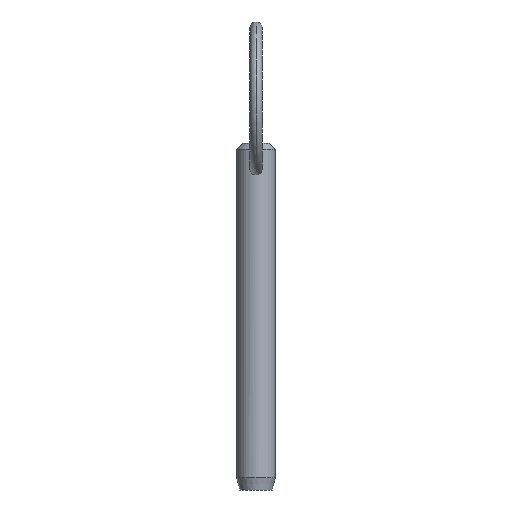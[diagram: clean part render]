
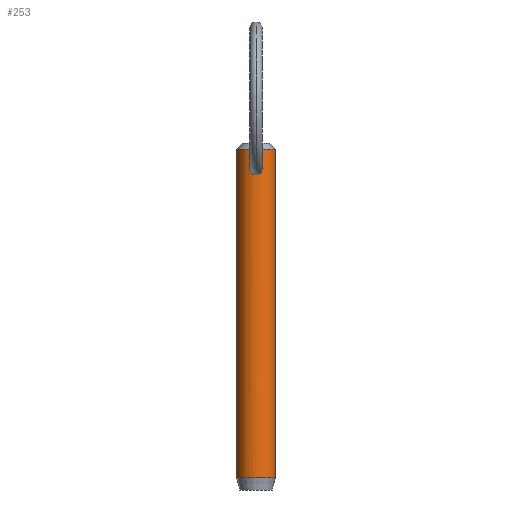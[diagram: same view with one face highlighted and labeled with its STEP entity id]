
A CAD part, front view. The second image highlights one B-rep face of the part: STEP entity #253.
In plain terms, the highlighted cylindrical face has radius 3.175 mm (diameter 6.35 mm), a partial arc.
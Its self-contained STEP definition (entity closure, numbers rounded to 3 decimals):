
#1 = AXIS2_PLACEMENT_3D ( 'NONE', #242, #316, #157 ) ;
#6 = CARTESIAN_POINT ( 'NONE',  ( -0.264, -3.165, 45.644 ) ) ;
#7 = CARTESIAN_POINT ( 'NONE',  ( -0.615, -3.116, 45.453 ) ) ;
#15 = FACE_OUTER_BOUND ( 'NONE', #373, .T. ) ;
#21 = CARTESIAN_POINT ( 'NONE',  ( 0., 0., 47.78 ) ) ;
#30 = CARTESIAN_POINT ( 'NONE',  ( 0.269, -3.166, 45.65 ) ) ;
#31 = VERTEX_POINT ( 'NONE', #267 ) ;
#48 = VERTEX_POINT ( 'NONE', #183 ) ;
#54 = ORIENTED_EDGE ( 'NONE', *, *, #173, .T. ) ;
#56 = EDGE_CURVE ( 'NONE', #419, #48, #167, .T. ) ;
#58 = CARTESIAN_POINT ( 'NONE',  ( 3.175, 0., 47.78 ) ) ;
#62 = CARTESIAN_POINT ( 'NONE',  ( 0.815, -3.07, 43.995 ) ) ;
#67 = VECTOR ( 'NONE', #415, 1000. ) ;
#72 = CARTESIAN_POINT ( 'NONE',  ( -0.888, -3.049, 44.109 ) ) ;
#77 = CARTESIAN_POINT ( 'NONE',  ( -0.134, -3.175, 43.603 ) ) ;
#78 = CARTESIAN_POINT ( 'NONE',  ( 0., -3.175, 45.682 ) ) ;
#86 = FACE_BOUND ( 'NONE', #145, .T. ) ;
#88 = DIRECTION ( 'NONE',  ( 0., 0., -1. ) ) ;
#93 = ORIENTED_EDGE ( 'NONE', *, *, #56, .T. ) ;
#101 = CARTESIAN_POINT ( 'NONE',  ( 0.888, -3.049, 44.109 ) ) ;
#106 = ORIENTED_EDGE ( 'NONE', *, *, #451, .T. ) ;
#110 = CARTESIAN_POINT ( 'NONE',  ( -0.508, -3.136, 45.535 ) ) ;
#132 = VECTOR ( 'NONE', #470, 1000. ) ;
#134 = CARTESIAN_POINT ( 'NONE',  ( 0.134, -3.175, 45.682 ) ) ;
#136 = CARTESIAN_POINT ( 'NONE',  ( 0.515, -3.135, 43.73 ) ) ;
#139 = AXIS2_PLACEMENT_3D ( 'NONE', #21, #444, #250 ) ;
#141 = EDGE_CURVE ( 'NONE', #467, #335, #310, .T. ) ;
#145 = EDGE_LOOP ( 'NONE', ( #106, #210 ) ) ;
#148 = CARTESIAN_POINT ( 'NONE',  ( 0., -3.175, 43.603 ) ) ;
#157 = DIRECTION ( 'NONE',  ( -1., 0., 0. ) ) ;
#167 = LINE ( 'NONE', #416, #67 ) ;
#172 = CARTESIAN_POINT ( 'NONE',  ( 0.884, -3.055, 45.157 ) ) ;
#173 = EDGE_CURVE ( 'NONE', #48, #31, #372, .T. ) ;
#176 = ORIENTED_EDGE ( 'NONE', *, *, #298, .T. ) ;
#183 = CARTESIAN_POINT ( 'NONE',  ( -3.175, 0., -5.92 ) ) ;
#188 = CARTESIAN_POINT ( 'NONE',  ( -0.328, -3.159, 45.621 ) ) ;
#189 = CARTESIAN_POINT ( 'NONE',  ( -0.815, -3.07, 43.995 ) ) ;
#195 = AXIS2_PLACEMENT_3D ( 'NONE', #324, #88, #277 ) ;
#198 = ORIENTED_EDGE ( 'NONE', *, *, #261, .F. ) ;
#210 = ORIENTED_EDGE ( 'NONE', *, *, #141, .T. ) ;
#226 = CARTESIAN_POINT ( 'NONE',  ( -0.629, -3.114, 43.805 ) ) ;
#231 = CARTESIAN_POINT ( 'NONE',  ( 0.134, -3.175, 43.603 ) ) ;
#242 = CARTESIAN_POINT ( 'NONE',  ( 0., 0., -5.92 ) ) ;
#250 = DIRECTION ( 'NONE',  ( 1., 0., 0. ) ) ;
#253 = ADVANCED_FACE ( 'NONE', ( #15, #86 ), #452, .T. ) ;
#256 = CARTESIAN_POINT ( 'NONE',  ( 0.51, -3.136, 45.534 ) ) ;
#258 = CIRCLE ( 'NONE', #139, 3.175 ) ;
#259 = B_SPLINE_CURVE_WITH_KNOTS ( 'NONE', 3,
 ( #293, #134, #30, #256, #410, #172, #447, #295, #337, #101, #62, #370, #136, #345, #231, #456 ),
 .UNSPECIFIED., .F., .F.,
 ( 4, 2, 2, 2, 2, 2, 2, 4 ),
 ( 0.003, 0.003, 0.004, 0.004, 0.005, 0.005, 0.006, 0.006 ),
 .UNSPECIFIED. ) ;
#261 = EDGE_CURVE ( 'NONE', #334, #31, #343, .T. ) ;
#267 = CARTESIAN_POINT ( 'NONE',  ( 3.175, 0., -5.92 ) ) ;
#272 = CARTESIAN_POINT ( 'NONE',  ( -0.067, -3.175, 45.682 ) ) ;
#277 = DIRECTION ( 'NONE',  ( -1., 0., 0. ) ) ;
#293 = CARTESIAN_POINT ( 'NONE',  ( 0., -3.175, 45.682 ) ) ;
#295 = CARTESIAN_POINT ( 'NONE',  ( 1.004, -3.012, 44.493 ) ) ;
#298 = EDGE_CURVE ( 'NONE', #334, #419, #258, .T. ) ;
#310 = B_SPLINE_CURVE_WITH_KNOTS ( 'NONE', 3,
 ( #148, #77, #387, #424, #226, #189, #72, #311, #423, #391, #346, #7, #110, #188, #6, #348, #272, #78 ),
 .UNSPECIFIED., .F., .F.,
 ( 4, 2, 2, 2, 2, 2, 2, 2, 4 ),
 ( 0.006, 0.006, 0.007, 0.007, 0.008, 0.008, 0.009, 0.009, 0.009 ),
 .UNSPECIFIED. ) ;
#311 = CARTESIAN_POINT ( 'NONE',  ( -0.983, -3.02, 44.359 ) ) ;
#316 = DIRECTION ( 'NONE',  ( 0., 0., 1. ) ) ;
#324 = CARTESIAN_POINT ( 'NONE',  ( 0., 0., 43.2 ) ) ;
#330 = CARTESIAN_POINT ( 'NONE',  ( 0., -3.175, 45.682 ) ) ;
#334 = VERTEX_POINT ( 'NONE', #58 ) ;
#335 = VERTEX_POINT ( 'NONE', #330 ) ;
#337 = CARTESIAN_POINT ( 'NONE',  ( 0.982, -3.02, 44.358 ) ) ;
#343 = LINE ( 'NONE', #357, #132 ) ;
#345 = CARTESIAN_POINT ( 'NONE',  ( 0.268, -3.166, 43.629 ) ) ;
#346 = CARTESIAN_POINT ( 'NONE',  ( -0.882, -3.055, 45.16 ) ) ;
#348 = CARTESIAN_POINT ( 'NONE',  ( -0.133, -3.173, 45.674 ) ) ;
#357 = CARTESIAN_POINT ( 'NONE',  ( 3.175, 0., 43.2 ) ) ;
#369 = CARTESIAN_POINT ( 'NONE',  ( -3.175, 0., 47.78 ) ) ;
#370 = CARTESIAN_POINT ( 'NONE',  ( 0.628, -3.114, 43.804 ) ) ;
#372 = CIRCLE ( 'NONE', #1, 3.175 ) ;
#373 = EDGE_LOOP ( 'NONE', ( #198, #176, #93, #54 ) ) ;
#387 = CARTESIAN_POINT ( 'NONE',  ( -0.269, -3.166, 43.629 ) ) ;
#391 = CARTESIAN_POINT ( 'NONE',  ( -0.991, -3.016, 44.896 ) ) ;
#410 = CARTESIAN_POINT ( 'NONE',  ( 0.617, -3.116, 45.451 ) ) ;
#415 = DIRECTION ( 'NONE',  ( 0., 0., -1. ) ) ;
#416 = CARTESIAN_POINT ( 'NONE',  ( -3.175, 0., 43.2 ) ) ;
#419 = VERTEX_POINT ( 'NONE', #369 ) ;
#423 = CARTESIAN_POINT ( 'NONE',  ( -1.004, -3.012, 44.495 ) ) ;
#424 = CARTESIAN_POINT ( 'NONE',  ( -0.516, -3.135, 43.731 ) ) ;
#444 = DIRECTION ( 'NONE',  ( 0., 0., -1. ) ) ;
#447 = CARTESIAN_POINT ( 'NONE',  ( 0.992, -3.016, 44.894 ) ) ;
#451 = EDGE_CURVE ( 'NONE', #335, #467, #259, .T. ) ;
#452 = CYLINDRICAL_SURFACE ( 'NONE', #195, 3.175 ) ;
#456 = CARTESIAN_POINT ( 'NONE',  ( 0., -3.175, 43.603 ) ) ;
#459 = CARTESIAN_POINT ( 'NONE',  ( 0., -3.175, 43.603 ) ) ;
#467 = VERTEX_POINT ( 'NONE', #459 ) ;
#470 = DIRECTION ( 'NONE',  ( 0., 0., -1. ) ) ;
